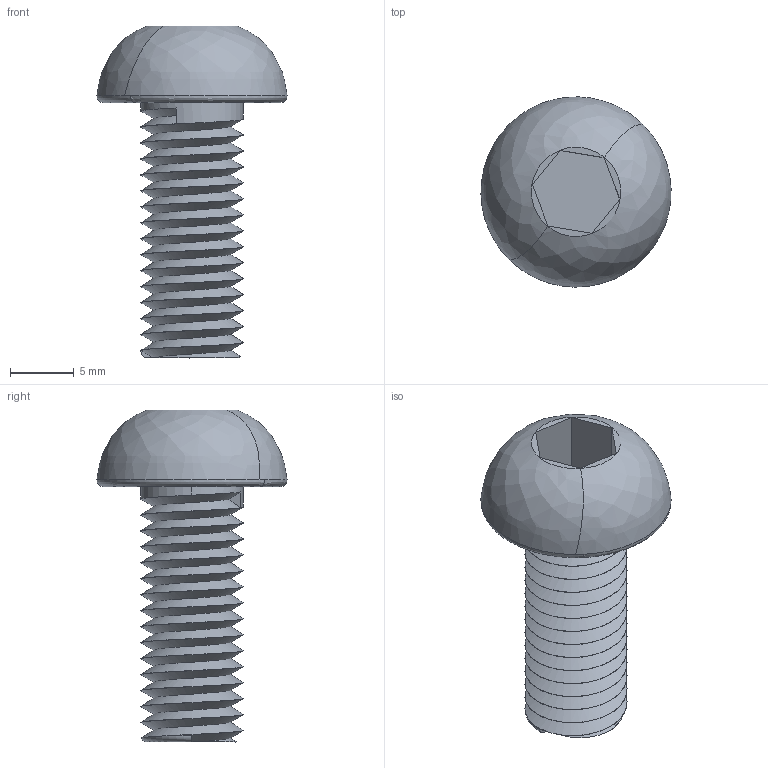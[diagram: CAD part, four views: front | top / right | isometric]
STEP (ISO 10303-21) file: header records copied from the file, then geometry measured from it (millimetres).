
FILE_DESCRIPTION (( 'STEP AP203' ), '1' );
FILE_NAME ('139-CE-FB-8.STEP', '2015-07-09T09:01:39', ( '' ), ( '' ), 'SwSTEP 2.0', 'SolidWorks 2013', '' );
FILE_SCHEMA (( 'CONFIG_CONTROL_DESIGN' ));
Length unit declared in the file: millimetre
Products named in the file (1): 139-CE-FB-8
Bounding box: 14.89 x 14.9 x 26 mm (x, y, z)
Volume: 1432.6 mm3; surface area: 1415.5 mm2
Topology: 1 solids, 1 shells, 53 faces, 142 edges, 94 vertices
Faces by surface type: cylinder 32, plane 13, bspline 7, torus 1
Entity records: 4442 total; most frequent: CARTESIAN_POINT 3262, ORIENTED_EDGE 284, DIRECTION 172, EDGE_CURVE 142, VERTEX_POINT 94, LINE 58, VECTOR 58, AXIS2_PLACEMENT_3D 57
